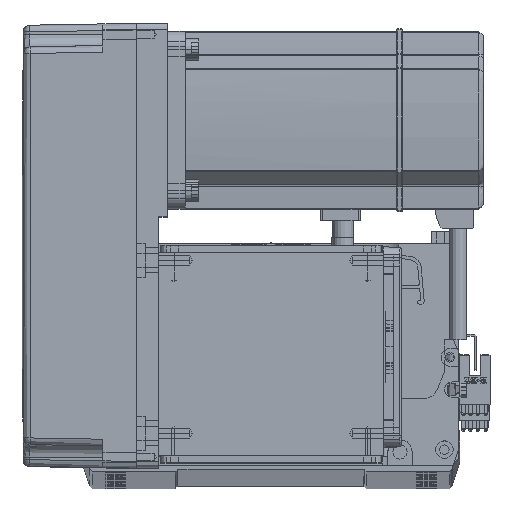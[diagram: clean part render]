
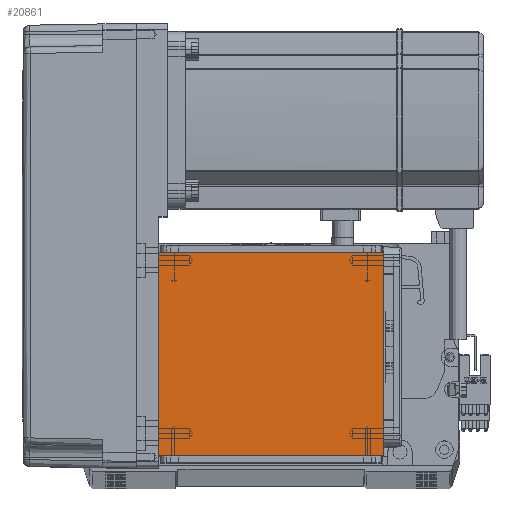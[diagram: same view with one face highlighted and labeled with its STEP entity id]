
A CAD part, top view. The second image highlights one B-rep face of the part: STEP entity #20861.
In plain terms, the highlighted planar face has unit normal (0, 0, 1).
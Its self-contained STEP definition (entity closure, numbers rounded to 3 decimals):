
#471 = VECTOR ( 'NONE', #24616, 1000. ) ;
#770 = EDGE_CURVE ( 'NONE', #42024, #65791, #15147, .T. ) ;
#876 = PLANE ( 'NONE',  #49201 ) ;
#1268 = DIRECTION ( 'NONE',  ( 0., 1., 0. ) ) ;
#6000 = ORIENTED_EDGE ( 'NONE', *, *, #9996, .F. ) ;
#6380 = CARTESIAN_POINT ( 'NONE',  ( 0., 0., 115. ) ) ;
#9996 = EDGE_CURVE ( 'NONE', #65838, #42159, #43587, .T. ) ;
#11928 = DIRECTION ( 'NONE',  ( 1., 0., 0. ) ) ;
#15147 = LINE ( 'NONE', #57625, #471 ) ;
#15466 = ORIENTED_EDGE ( 'NONE', *, *, #25900, .T. ) ;
#15790 = ORIENTED_EDGE ( 'NONE', *, *, #770, .F. ) ;
#20184 = CARTESIAN_POINT ( 'NONE',  ( -50.5, 111.5, 115. ) ) ;
#20861 = ADVANCED_FACE ( 'NONE', ( #50671 ), #876, .T. ) ;
#22519 = DIRECTION ( 'NONE',  ( -1., 0., 0. ) ) ;
#24616 = DIRECTION ( 'NONE',  ( 1., 0., 0. ) ) ;
#25900 = EDGE_CURVE ( 'NONE', #65838, #65791, #31037, .T. ) ;
#26409 = CARTESIAN_POINT ( 'NONE',  ( 50.5, 111.5, 115. ) ) ;
#27095 = CARTESIAN_POINT ( 'NONE',  ( -50.5, 122., 115. ) ) ;
#31037 = LINE ( 'NONE', #43647, #41444 ) ;
#33362 = CARTESIAN_POINT ( 'NONE',  ( -70.004, 20., 115. ) ) ;
#34123 = EDGE_LOOP ( 'NONE', ( #15790, #46421, #6000, #15466 ) ) ;
#37700 = CARTESIAN_POINT ( 'NONE',  ( -50.5, 20., 115. ) ) ;
#41444 = VECTOR ( 'NONE', #1268, 1000. ) ;
#42024 = VERTEX_POINT ( 'NONE', #20184 ) ;
#42159 = VERTEX_POINT ( 'NONE', #37700 ) ;
#43587 = LINE ( 'NONE', #33362, #44403 ) ;
#43647 = CARTESIAN_POINT ( 'NONE',  ( 50.5, 122., 115. ) ) ;
#44403 = VECTOR ( 'NONE', #22519, 1000. ) ;
#44923 = DIRECTION ( 'NONE',  ( 0., 0., 1. ) ) ;
#46421 = ORIENTED_EDGE ( 'NONE', *, *, #53876, .T. ) ;
#49201 = AXIS2_PLACEMENT_3D ( 'NONE', #6380, #44923, #11928 ) ;
#50671 = FACE_OUTER_BOUND ( 'NONE', #34123, .T. ) ;
#52864 = LINE ( 'NONE', #27095, #56369 ) ;
#53876 = EDGE_CURVE ( 'NONE', #42024, #42159, #52864, .T. ) ;
#56369 = VECTOR ( 'NONE', #59589, 1000. ) ;
#57625 = CARTESIAN_POINT ( 'NONE',  ( -70.004, 111.5, 115. ) ) ;
#58680 = CARTESIAN_POINT ( 'NONE',  ( 50.5, 20., 115. ) ) ;
#59589 = DIRECTION ( 'NONE',  ( 0., -1., 0. ) ) ;
#65791 = VERTEX_POINT ( 'NONE', #26409 ) ;
#65838 = VERTEX_POINT ( 'NONE', #58680 ) ;
